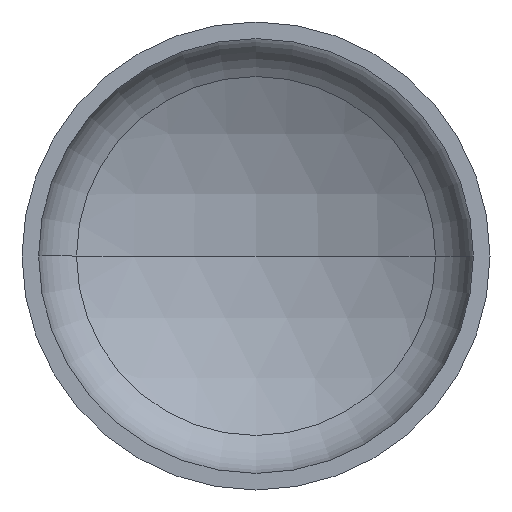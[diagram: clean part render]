
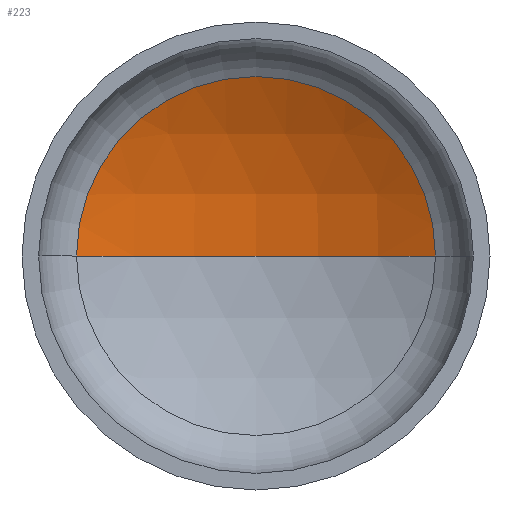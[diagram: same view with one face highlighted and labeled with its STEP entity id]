
A CAD part, front view. The second image highlights one B-rep face of the part: STEP entity #223.
In plain terms, the highlighted spherical face has radius 720 mm.
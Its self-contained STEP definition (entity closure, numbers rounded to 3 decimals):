
#1 = AXIS2_PLACEMENT_3D ( 'NONE', #240, #406, #298 ) ;
#4 = CARTESIAN_POINT ( 'NONE',  ( 345.103, 222.87, 0. ) ) ;
#11 = DIRECTION ( 'NONE',  ( 0., 0., -1. ) ) ;
#13 = AXIS2_PLACEMENT_3D ( 'NONE', #232, #234, #364 ) ;
#20 = CARTESIAN_POINT ( 'NONE',  ( 0., -409.034, 0. ) ) ;
#36 = EDGE_LOOP ( 'NONE', ( #111, #131, #102 ) ) ;
#42 = AXIS2_PLACEMENT_3D ( 'NONE', #20, #11, #357 ) ;
#56 = DIRECTION ( 'NONE',  ( 0., 0., -1. ) ) ;
#102 = ORIENTED_EDGE ( 'NONE', *, *, #330, .T. ) ;
#109 = SPHERICAL_SURFACE ( 'NONE', #42, 720. ) ;
#111 = ORIENTED_EDGE ( 'NONE', *, *, #370, .F. ) ;
#112 = VERTEX_POINT ( 'NONE', #186 ) ;
#127 = VERTEX_POINT ( 'NONE', #185 ) ;
#131 = ORIENTED_EDGE ( 'NONE', *, *, #372, .T. ) ;
#145 = CIRCLE ( 'NONE', #378, 720. ) ;
#185 = CARTESIAN_POINT ( 'NONE',  ( 0., 310.966, 0. ) ) ;
#186 = CARTESIAN_POINT ( 'NONE',  ( -345.103, 222.87, 0. ) ) ;
#220 = VERTEX_POINT ( 'NONE', #4 ) ;
#223 = ADVANCED_FACE ( 'NONE', ( #295 ), #109, .F. ) ;
#226 = CIRCLE ( 'NONE', #13, 345.103 ) ;
#232 = CARTESIAN_POINT ( 'NONE',  ( 0., 222.87, 0. ) ) ;
#234 = DIRECTION ( 'NONE',  ( 0., -1., 0. ) ) ;
#240 = CARTESIAN_POINT ( 'NONE',  ( 0., -409.034, 0. ) ) ;
#273 = DIRECTION ( 'NONE',  ( -1., 0., 0. ) ) ;
#295 = FACE_OUTER_BOUND ( 'NONE', #36, .T. ) ;
#298 = DIRECTION ( 'NONE',  ( 1., 0., 0. ) ) ;
#330 = EDGE_CURVE ( 'NONE', #220, #112, #226, .T. ) ;
#331 = CARTESIAN_POINT ( 'NONE',  ( 0., -409.034, 0. ) ) ;
#357 = DIRECTION ( 'NONE',  ( -1., 0., 0. ) ) ;
#364 = DIRECTION ( 'NONE',  ( 1., 0., 0. ) ) ;
#370 = EDGE_CURVE ( 'NONE', #127, #112, #391, .T. ) ;
#372 = EDGE_CURVE ( 'NONE', #127, #220, #145, .T. ) ;
#378 = AXIS2_PLACEMENT_3D ( 'NONE', #331, #56, #273 ) ;
#391 = CIRCLE ( 'NONE', #1, 720. ) ;
#406 = DIRECTION ( 'NONE',  ( 0., 0., 1. ) ) ;
